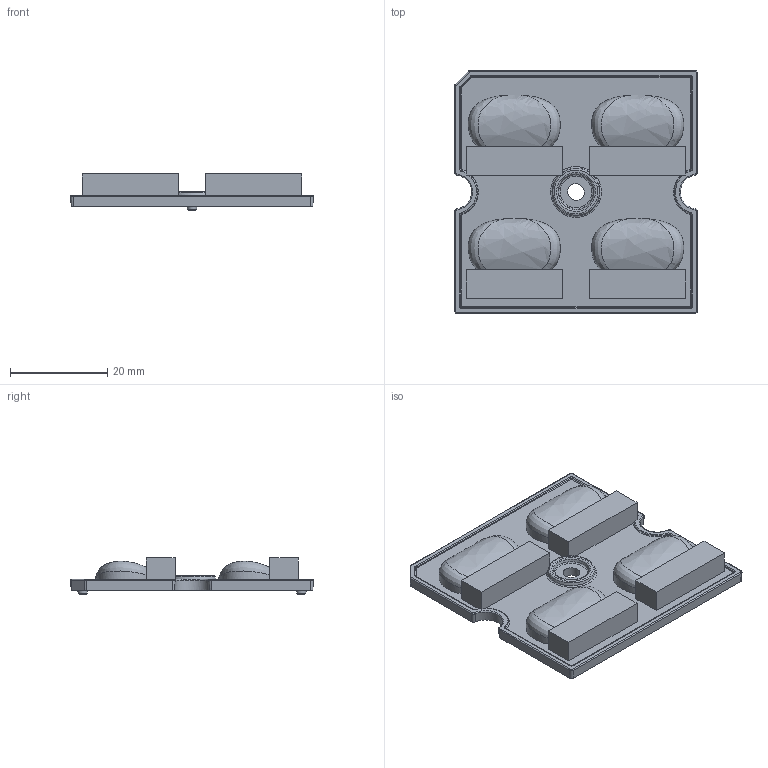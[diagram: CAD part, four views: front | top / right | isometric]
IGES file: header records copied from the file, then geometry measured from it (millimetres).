
Start section: C
Global section: file name: 023-W0J-02.igs; native system: By Siemens PLM Incorporated; preprocessor: XPlus GENERIC/IGES 23.0.61; author: Author; organization: Title; date: 20231114.172610; units: millimetre
Bounding box: 49.98 x 49.98 x 7.44 mm (x, y, z)
Volume: 8742.9 mm3; surface area: 7077.5 mm2
Topology: 1 solids, 1 shells, 417 faces, 1095 edges, 706 vertices
Faces by surface type: bspline 417
